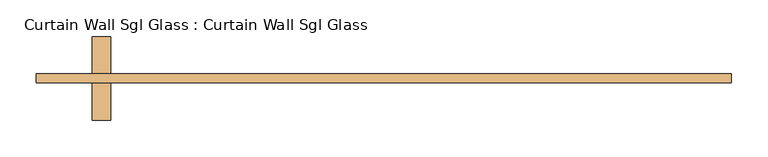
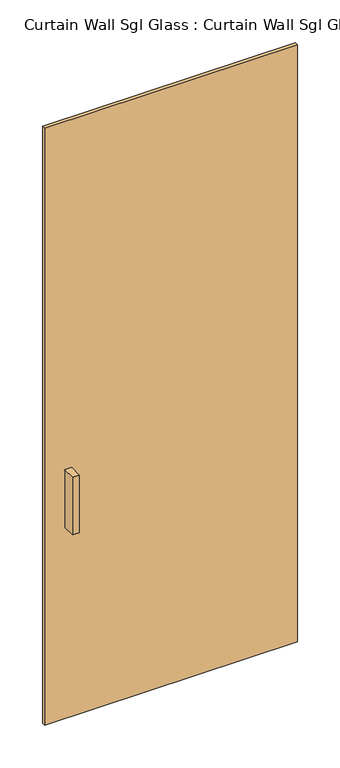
"""IFC4 building model written with IfcOpenShell, lengths in millimetres: door geometry, Curtain Wall Sgl Glass : Curtain Wall Sgl Glass."""

from ifc_helpers import new_model, si_unit, frame, origin, origin_with_axes, place, context, project, spatial, polyline, outline, extrude, source, transform, mapped, element, save


def curtain_wall_sgl_glass_curtain_wall_sgl_glass_ea362d66(model_context):
    return source(origin(), model_context, "Body", "SweptSolid", [
        extrude(outline(polyline([(-374.65, 12.7), (-374.65, -38.1), (-400.05, -38.1), (-400.05, 12.7), (-374.65, 12.7)])), frame((0.0, 0.0, 762.0), z_axis=(0.0, 0.0, 1.0), x_axis=(1.0, 0.0, 0.0)), (0.0, 0.0, 1.0), 228.6),
        extrude(outline(polyline([(-400.05, -101.6), (-400.05, -50.8), (-374.65, -50.8), (-374.65, -101.6), (-400.05, -101.6)])), frame((0.0, 0.0, 762.0), z_axis=(0.0, 0.0, 1.0), x_axis=(1.0, 0.0, 0.0)), (0.0, 0.0, 1.0), 228.6),
        extrude(outline(polyline([(476.25, -50.8), (-476.25, -50.8), (-476.25, -38.1), (476.25, -38.1), (476.25, -50.8)])), origin_with_axes(), (0.0, 0.0, 1.0), 2374.9),
    ])


if __name__ == "__main__":
    model = new_model("IFC4")
    model_context = context("Model", 3, world=origin())
    ifc_project = project(units=[si_unit("LENGTHUNIT", "METRE", prefix="MILLI")], contexts=[model_context])
    site = spatial("IfcSite", under=ifc_project)
    building = spatial("IfcBuilding", under=site)
    placement = place(None, origin())
    curtain_wall_sgl_glass_curtain_wall_sgl_glass_shape = curtain_wall_sgl_glass_curtain_wall_sgl_glass_ea362d66(model_context)
    element("IfcDoor", 1, ObjectType="Curtain Wall Sgl Glass : Curtain Wall Sgl Glass", at=placement, inside=building, context=model_context, shape_type="MappedRepresentation", body=[
        mapped(curtain_wall_sgl_glass_curtain_wall_sgl_glass_shape, transform((0.0, 0.0, 0.0), x_axis=(1.0, 0.0, 0.0), y_axis=(0.0, 1.0, 0.0), z_axis=(0.0, 0.0, 1.0))),
    ])
    save(model, "model.ifc")
